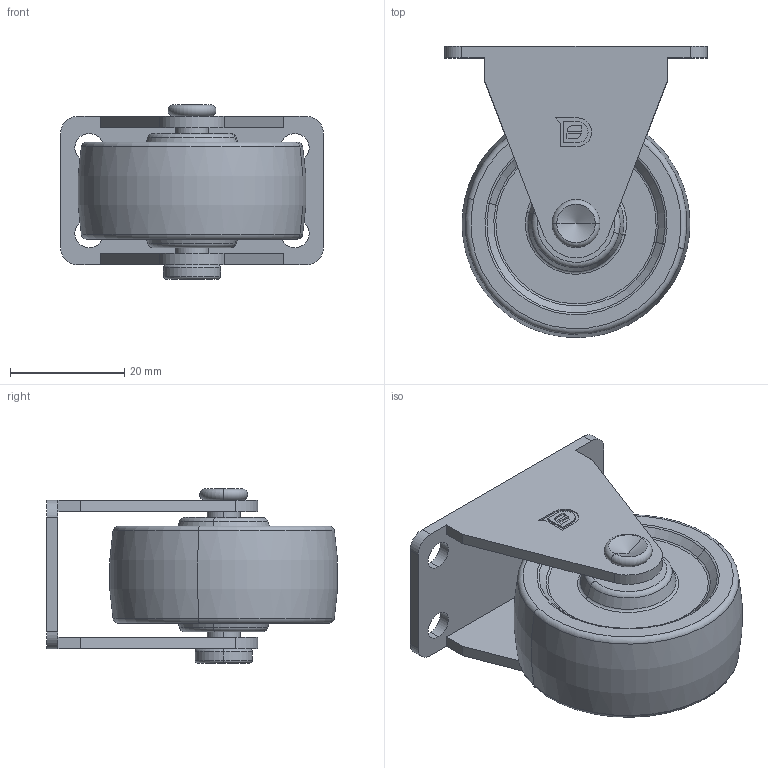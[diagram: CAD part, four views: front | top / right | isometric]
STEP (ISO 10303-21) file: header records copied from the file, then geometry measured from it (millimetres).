
FILE_DESCRIPTION (( 'STEP AP203' ), '1' );
FILE_NAME ('×°ÅäÌå15.STEP', '2025-10-30T02:57:49', ( '' ), ( '' ), 'SwSTEP 2.0', 'SolidWorks 2021', '' );
FILE_SCHEMA (( 'CONFIG_CONTROL_DESIGN' ));
Length unit declared in the file: millimetre
Products named in the file (3): 1.5寸10系列固定架_預設; 蚾饜极15; 1.5渡晦謫
Assembly tree (2 placements, depth 2):
  蚾饜极15
    1.5寸10系列固定架_預設
    1.5渡晦謫
Bounding box: 46 x 50.92 x 30.51 mm (x, y, z)
Volume: 25352.9 mm3; surface area: 11522.4 mm2
Topology: 2 solids, 3 shells, 114 faces, 267 edges, 167 vertices
Faces by surface type: plane 43, torus 32, cylinder 31, cone 8
Entity records: 3610 total; most frequent: DIRECTION 645, CARTESIAN_POINT 551, ORIENTED_EDGE 530, EDGE_CURVE 265, AXIS2_PLACEMENT_3D 261, VERTEX_POINT 167, CIRCLE 142, EDGE_LOOP 138
